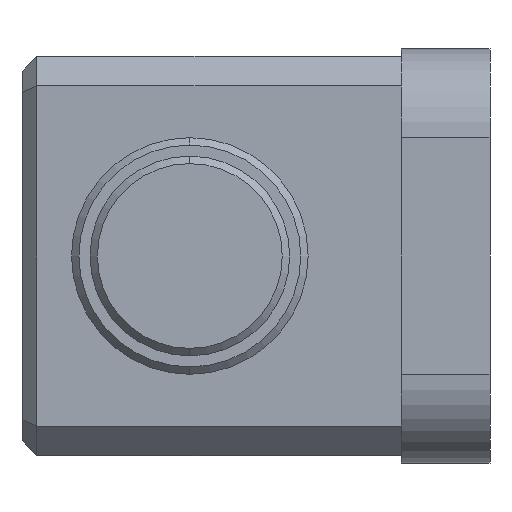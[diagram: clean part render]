
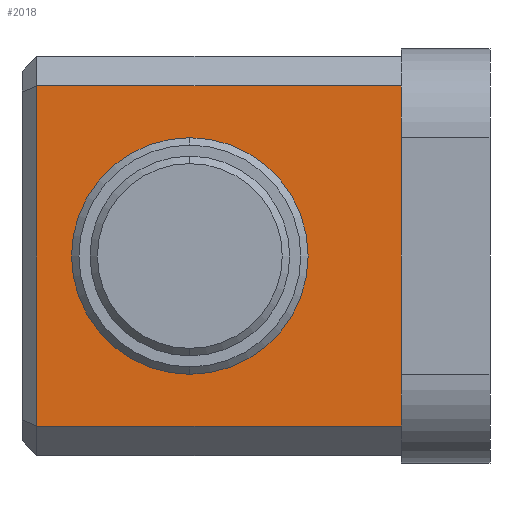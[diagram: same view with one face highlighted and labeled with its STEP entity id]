
A CAD part, left-side view. The second image highlights one B-rep face of the part: STEP entity #2018.
In plain terms, the highlighted planar face has unit normal (-1, 0, 0).
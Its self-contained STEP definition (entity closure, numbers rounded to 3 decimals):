
#33 = EDGE_CURVE ( 'NONE', #1332, #783, #2259, .T. ) ;
#276 = CARTESIAN_POINT ( 'NONE',  ( -7.5, 36.85, -11.5 ) ) ;
#333 = AXIS2_PLACEMENT_3D ( 'NONE', #1824, #1507, #1835 ) ;
#398 = ORIENTED_EDGE ( 'NONE', *, *, #1421, .T. ) ;
#434 = CIRCLE ( 'NONE', #963, 8. ) ;
#438 = VECTOR ( 'NONE', #1850, 1000. ) ;
#448 = VERTEX_POINT ( 'NONE', #1036 ) ;
#520 = CARTESIAN_POINT ( 'NONE',  ( -7.5, 12.2, -13.5 ) ) ;
#534 = EDGE_CURVE ( 'NONE', #448, #2276, #1427, .T. ) ;
#783 = VERTEX_POINT ( 'NONE', #978 ) ;
#823 = VECTOR ( 'NONE', #1046, 1000. ) ;
#898 = CARTESIAN_POINT ( 'NONE',  ( -7.5, 37.85, 11.5 ) ) ;
#941 = VECTOR ( 'NONE', #1650, 1000. ) ;
#963 = AXIS2_PLACEMENT_3D ( 'NONE', #2251, #1685, #2034 ) ;
#969 = CIRCLE ( 'NONE', #1692, 8. ) ;
#978 = CARTESIAN_POINT ( 'NONE',  ( -7.5, 12.2, -11.5 ) ) ;
#1014 = VECTOR ( 'NONE', #1464, 1000. ) ;
#1036 = CARTESIAN_POINT ( 'NONE',  ( -7.5, 36.85, 11.5 ) ) ;
#1046 = DIRECTION ( 'NONE',  ( 0., 0., -1. ) ) ;
#1066 = CARTESIAN_POINT ( 'NONE',  ( -7.5, 26.5, 8. ) ) ;
#1069 = LINE ( 'NONE', #898, #1014 ) ;
#1085 = FACE_BOUND ( 'NONE', #1141, .T. ) ;
#1105 = CARTESIAN_POINT ( 'NONE',  ( -7.5, 12.2, -11.5 ) ) ;
#1141 = EDGE_LOOP ( 'NONE', ( #398, #1435 ) ) ;
#1158 = EDGE_LOOP ( 'NONE', ( #1708, #2110, #2243, #1445 ) ) ;
#1234 = VERTEX_POINT ( 'NONE', #1066 ) ;
#1264 = EDGE_CURVE ( 'NONE', #1951, #1234, #434, .T. ) ;
#1290 = LINE ( 'NONE', #1105, #438 ) ;
#1332 = VERTEX_POINT ( 'NONE', #2339 ) ;
#1356 = DIRECTION ( 'NONE',  ( 0., 0., 1. ) ) ;
#1421 = EDGE_CURVE ( 'NONE', #1234, #1951, #969, .T. ) ;
#1427 = LINE ( 'NONE', #276, #823 ) ;
#1435 = ORIENTED_EDGE ( 'NONE', *, *, #1264, .T. ) ;
#1445 = ORIENTED_EDGE ( 'NONE', *, *, #33, .F. ) ;
#1464 = DIRECTION ( 'NONE',  ( 0., 1., 0. ) ) ;
#1507 = DIRECTION ( 'NONE',  ( -1., 0., 0. ) ) ;
#1533 = DIRECTION ( 'NONE',  ( 1., 0., 0. ) ) ;
#1620 = CARTESIAN_POINT ( 'NONE',  ( -7.5, 36.85, -11.5 ) ) ;
#1650 = DIRECTION ( 'NONE',  ( 0., 0., -1. ) ) ;
#1685 = DIRECTION ( 'NONE',  ( 1., 0., 0. ) ) ;
#1692 = AXIS2_PLACEMENT_3D ( 'NONE', #1722, #1533, #1356 ) ;
#1708 = ORIENTED_EDGE ( 'NONE', *, *, #2269, .T. ) ;
#1722 = CARTESIAN_POINT ( 'NONE',  ( -7.5, 26.5, 0. ) ) ;
#1728 = EDGE_CURVE ( 'NONE', #2276, #783, #1290, .T. ) ;
#1824 = CARTESIAN_POINT ( 'NONE',  ( -7.5, 37.85, 13.5 ) ) ;
#1835 = DIRECTION ( 'NONE',  ( 0., 0., 1. ) ) ;
#1850 = DIRECTION ( 'NONE',  ( 0., -1., 0. ) ) ;
#1951 = VERTEX_POINT ( 'NONE', #2159 ) ;
#2018 = ADVANCED_FACE ( 'NONE', ( #1085, #2471 ), #2244, .T. ) ;
#2034 = DIRECTION ( 'NONE',  ( 0., 0., 1. ) ) ;
#2110 = ORIENTED_EDGE ( 'NONE', *, *, #534, .T. ) ;
#2159 = CARTESIAN_POINT ( 'NONE',  ( -7.5, 26.5, -8. ) ) ;
#2243 = ORIENTED_EDGE ( 'NONE', *, *, #1728, .T. ) ;
#2244 = PLANE ( 'NONE',  #333 ) ;
#2251 = CARTESIAN_POINT ( 'NONE',  ( -7.5, 26.5, 0. ) ) ;
#2259 = LINE ( 'NONE', #520, #941 ) ;
#2269 = EDGE_CURVE ( 'NONE', #1332, #448, #1069, .T. ) ;
#2276 = VERTEX_POINT ( 'NONE', #1620 ) ;
#2339 = CARTESIAN_POINT ( 'NONE',  ( -7.5, 12.2, 11.5 ) ) ;
#2471 = FACE_OUTER_BOUND ( 'NONE', #1158, .T. ) ;
